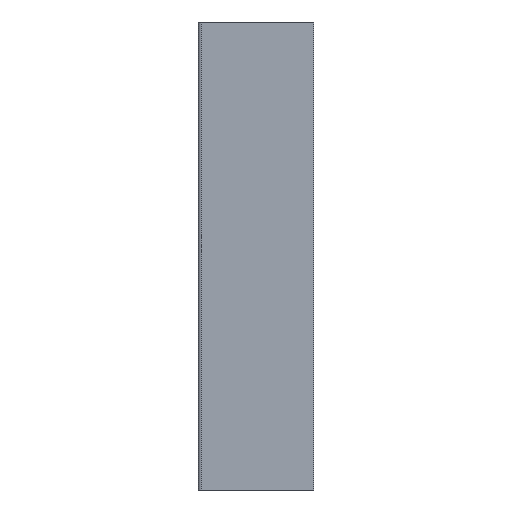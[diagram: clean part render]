
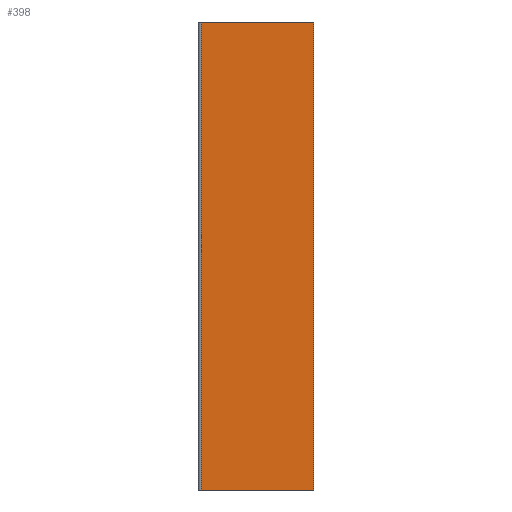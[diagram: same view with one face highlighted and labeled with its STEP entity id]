
A CAD part, left-side view. The second image highlights one B-rep face of the part: STEP entity #398.
In plain terms, the highlighted planar face has unit normal (-1, 0, 0).
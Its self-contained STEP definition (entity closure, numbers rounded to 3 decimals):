
#37 = DIRECTION ( 'NONE',  ( 0., -1., 0. ) ) ;
#64 = DIRECTION ( 'NONE',  ( 1., 0., 0. ) ) ;
#77 = VERTEX_POINT ( 'NONE', #324 ) ;
#85 = EDGE_CURVE ( 'NONE', #428, #943, #802, .T. ) ;
#153 = VECTOR ( 'NONE', #717, 1000. ) ;
#155 = ORIENTED_EDGE ( 'NONE', *, *, #529, .F. ) ;
#181 = ORIENTED_EDGE ( 'NONE', *, *, #194, .T. ) ;
#183 = LINE ( 'NONE', #952, #153 ) ;
#194 = EDGE_CURVE ( 'NONE', #428, #713, #183, .T. ) ;
#209 = CARTESIAN_POINT ( 'NONE',  ( -3., 0., 0. ) ) ;
#276 = VECTOR ( 'NONE', #763, 1000. ) ;
#279 = CARTESIAN_POINT ( 'NONE',  ( -3., 120., 0. ) ) ;
#282 = CARTESIAN_POINT ( 'NONE',  ( -3., 0., 500. ) ) ;
#309 = EDGE_LOOP ( 'NONE', ( #674, #181, #450, #155 ) ) ;
#324 = CARTESIAN_POINT ( 'NONE',  ( -3., 0., 0. ) ) ;
#382 = EDGE_CURVE ( 'NONE', #713, #77, #383, .T. ) ;
#383 = LINE ( 'NONE', #209, #967 ) ;
#398 = ADVANCED_FACE ( 'NONE', ( #558 ), #959, .F. ) ;
#407 = VECTOR ( 'NONE', #37, 1000. ) ;
#428 = VERTEX_POINT ( 'NONE', #653 ) ;
#450 = ORIENTED_EDGE ( 'NONE', *, *, #382, .T. ) ;
#479 = AXIS2_PLACEMENT_3D ( 'NONE', #282, #64, #575 ) ;
#529 = EDGE_CURVE ( 'NONE', #943, #77, #661, .T. ) ;
#542 = CARTESIAN_POINT ( 'NONE',  ( -3., 0., 500. ) ) ;
#558 = FACE_OUTER_BOUND ( 'NONE', #309, .T. ) ;
#575 = DIRECTION ( 'NONE',  ( 0., 0., -1. ) ) ;
#653 = CARTESIAN_POINT ( 'NONE',  ( -3., 120., 500. ) ) ;
#661 = LINE ( 'NONE', #542, #276 ) ;
#674 = ORIENTED_EDGE ( 'NONE', *, *, #85, .F. ) ;
#697 = CARTESIAN_POINT ( 'NONE',  ( -3., 0., 500. ) ) ;
#713 = VERTEX_POINT ( 'NONE', #279 ) ;
#717 = DIRECTION ( 'NONE',  ( 0., 0., -1. ) ) ;
#718 = DIRECTION ( 'NONE',  ( 0., -1., 0. ) ) ;
#763 = DIRECTION ( 'NONE',  ( 0., 0., -1. ) ) ;
#802 = LINE ( 'NONE', #922, #407 ) ;
#922 = CARTESIAN_POINT ( 'NONE',  ( -3., 0., 500. ) ) ;
#943 = VERTEX_POINT ( 'NONE', #697 ) ;
#952 = CARTESIAN_POINT ( 'NONE',  ( -3., 120., 500. ) ) ;
#959 = PLANE ( 'NONE',  #479 ) ;
#967 = VECTOR ( 'NONE', #718, 1000. ) ;
